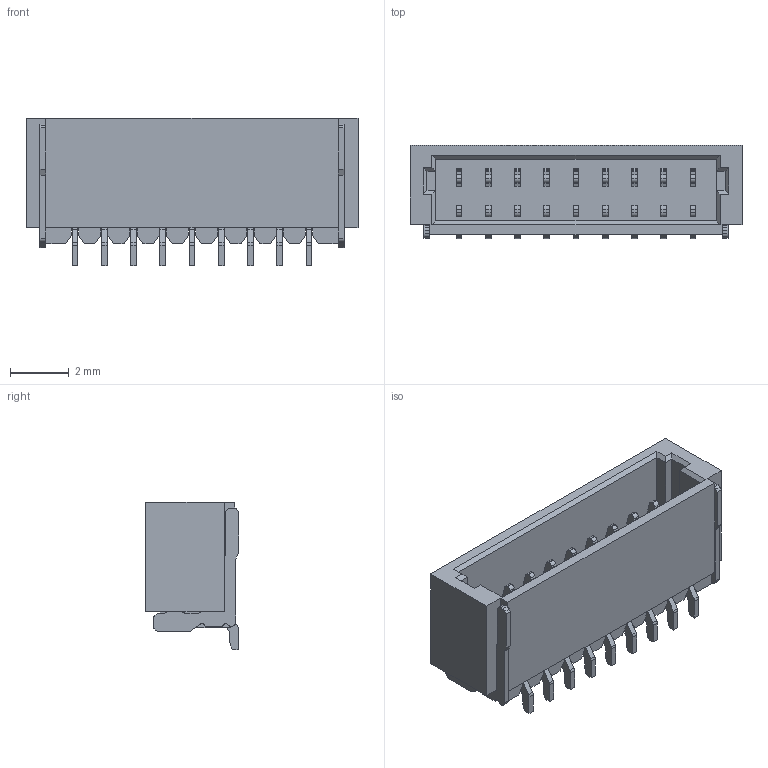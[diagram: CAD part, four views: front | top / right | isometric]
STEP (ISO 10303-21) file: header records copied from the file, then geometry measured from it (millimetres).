
FILE_DESCRIPTION(/* description */ (''),/* implementation_level */ '2;1');
FILE_NAME(/* name */ 'E:\工作文件\现出货3D文件\03领强\1.0\HC-1.0-NAWT-03(卧贴-HCTL)\HC-1.0-9AWT-03(卧贴-HCTL).stp',/* time_stamp */ '2024-03-01T16:22:06+08:00',/* author */ ('admin'),/* organization */ (''),/* preprocessor_version */ 'ST-DEVELOPER v18.1',/* originating_system */ 'Autodesk Inventor 2021',/* authorisation */ '');
FILE_SCHEMA (('AUTOMOTIVE_DESIGN { 1 0 10303 214 3 1 1 }'));
Length unit declared in the file: millimetre
Products named in the file (1): HC-1.0-2AWT-03(卧贴-HCTL)_Shrinkwrap_1
Bounding box: 11.35 x 3.18 x 5.05 mm (x, y, z)
Volume: 79.5 mm3; surface area: 330.5 mm2
Topology: 1 solids, 19 shells, 668 faces, 1744 edges, 1150 vertices
Faces by surface type: plane 476, cylinder 192
Entity records: 21092 total; most frequent: CARTESIAN_POINT 3563, ORIENTED_EDGE 3488, DIRECTION 3472, EDGE_CURVE 1744, LINE 1354, VECTOR 1354, VERTEX_POINT 1150, AXIS2_PLACEMENT_3D 1059
